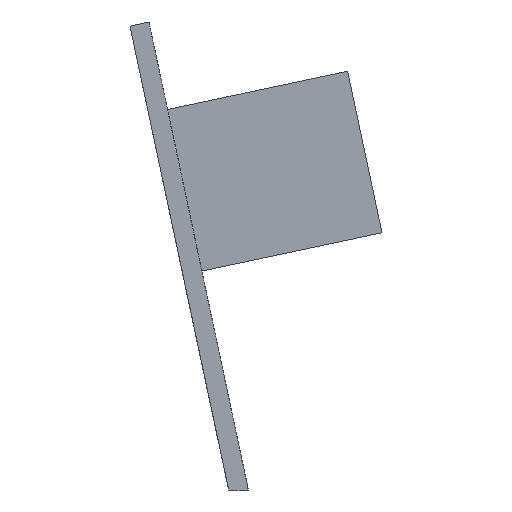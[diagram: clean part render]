
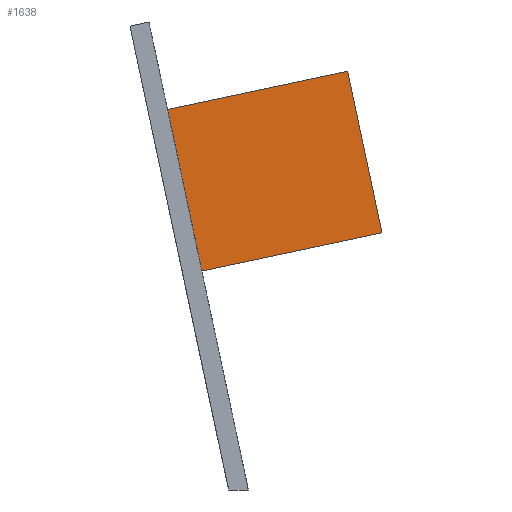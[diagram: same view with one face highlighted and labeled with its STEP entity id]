
A CAD part, left-side view. The second image highlights one B-rep face of the part: STEP entity #1638.
In plain terms, the highlighted planar face has unit normal (-1, 0, 0).
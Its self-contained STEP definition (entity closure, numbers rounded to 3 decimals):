
#44 = PLANE('',#45);
#45 = AXIS2_PLACEMENT_3D('',#46,#47,#48);
#46 = CARTESIAN_POINT('',(-10.4,9.249,13.033));
#47 = DIRECTION('',(0.,0.978,-0.208));
#48 = DIRECTION('',(0.,0.208,0.978));
#378 = VERTEX_POINT('',#379);
#379 = CARTESIAN_POINT('',(-8.5,21.308,69.765));
#393 = PLANE('',#394);
#394 = AXIS2_PLACEMENT_3D('',#395,#396,#397);
#395 = CARTESIAN_POINT('',(-8.5,-4.857,75.327));
#396 = DIRECTION('',(0.,0.208,0.978));
#397 = DIRECTION('',(1.,0.,0.));
#405 = EDGE_CURVE('',#378,#406,#408,.T.);
#406 = VERTEX_POINT('',#407);
#407 = CARTESIAN_POINT('',(-8.5,16.318,46.29));
#408 = SURFACE_CURVE('',#409,(#413,#420),.PCURVE_S1.);
#409 = LINE('',#410,#411);
#410 = CARTESIAN_POINT('',(-8.5,12.784,29.661));
#411 = VECTOR('',#412,1.);
#412 = DIRECTION('',(0.,-0.208,-0.978));
#413 = PCURVE('',#44,#414);
#414 = DEFINITIONAL_REPRESENTATION('',(#415),#419);
#415 = LINE('',#416,#417);
#416 = CARTESIAN_POINT('',(17.,1.9));
#417 = VECTOR('',#418,1.);
#418 = DIRECTION('',(-1.,0.));
#419 = ( GEOMETRIC_REPRESENTATION_CONTEXT(2) 
PARAMETRIC_REPRESENTATION_CONTEXT() REPRESENTATION_CONTEXT('2D SPACE',''
  ) );
#420 = PCURVE('',#421,#426);
#421 = PLANE('',#422);
#422 = AXIS2_PLACEMENT_3D('',#423,#424,#425);
#423 = CARTESIAN_POINT('',(-8.5,-9.847,51.851));
#424 = DIRECTION('',(1.,0.,0.));
#425 = DIRECTION('',(0.,0.208,0.978));
#426 = DEFINITIONAL_REPRESENTATION('',(#427),#431);
#427 = LINE('',#428,#429);
#428 = CARTESIAN_POINT('',(-17.,-26.75));
#429 = VECTOR('',#430,1.);
#430 = DIRECTION('',(-1.,0.));
#431 = ( GEOMETRIC_REPRESENTATION_CONTEXT(2) 
PARAMETRIC_REPRESENTATION_CONTEXT() REPRESENTATION_CONTEXT('2D SPACE',''
  ) );
#449 = PLANE('',#450);
#450 = AXIS2_PLACEMENT_3D('',#451,#452,#453);
#451 = CARTESIAN_POINT('',(-8.5,-9.847,51.851));
#452 = DIRECTION('',(0.,0.208,0.978));
#453 = DIRECTION('',(1.,0.,0.));
#1236 = PLANE('',#1237);
#1237 = AXIS2_PLACEMENT_3D('',#1238,#1239,#1240);
#1238 = CARTESIAN_POINT('',(-8.5,-9.847,51.851));
#1239 = DIRECTION('',(0.,0.978,-0.208));
#1240 = DIRECTION('',(0.,0.208,0.978));
#1593 = EDGE_CURVE('',#1594,#406,#1596,.T.);
#1594 = VERTEX_POINT('',#1595);
#1595 = CARTESIAN_POINT('',(-8.5,-9.847,51.851));
#1596 = SURFACE_CURVE('',#1597,(#1601,#1608),.PCURVE_S1.);
#1597 = LINE('',#1598,#1599);
#1598 = CARTESIAN_POINT('',(-8.5,-9.847,51.851));
#1599 = VECTOR('',#1600,1.);
#1600 = DIRECTION('',(0.,0.978,-0.208));
#1601 = PCURVE('',#449,#1602);
#1602 = DEFINITIONAL_REPRESENTATION('',(#1603),#1607);
#1603 = LINE('',#1604,#1605);
#1604 = CARTESIAN_POINT('',(0.,0.));
#1605 = VECTOR('',#1606,1.);
#1606 = DIRECTION('',(0.,1.));
#1607 = ( GEOMETRIC_REPRESENTATION_CONTEXT(2) 
PARAMETRIC_REPRESENTATION_CONTEXT() REPRESENTATION_CONTEXT('2D SPACE',''
  ) );
#1608 = PCURVE('',#421,#1609);
#1609 = DEFINITIONAL_REPRESENTATION('',(#1610),#1614);
#1610 = LINE('',#1611,#1612);
#1611 = CARTESIAN_POINT('',(0.,0.));
#1612 = VECTOR('',#1613,1.);
#1613 = DIRECTION('',(0.,-1.));
#1614 = ( GEOMETRIC_REPRESENTATION_CONTEXT(2) 
PARAMETRIC_REPRESENTATION_CONTEXT() REPRESENTATION_CONTEXT('2D SPACE',''
  ) );
#1638 = ADVANCED_FACE('',(#1639),#421,.F.);
#1639 = FACE_BOUND('',#1640,.F.);
#1640 = EDGE_LOOP('',(#1641,#1664,#1685,#1686));
#1641 = ORIENTED_EDGE('',*,*,#1642,.F.);
#1642 = EDGE_CURVE('',#1643,#378,#1645,.T.);
#1643 = VERTEX_POINT('',#1644);
#1644 = CARTESIAN_POINT('',(-8.5,-4.857,75.327));
#1645 = SURFACE_CURVE('',#1646,(#1650,#1657),.PCURVE_S1.);
#1646 = LINE('',#1647,#1648);
#1647 = CARTESIAN_POINT('',(-8.5,-4.857,75.327));
#1648 = VECTOR('',#1649,1.);
#1649 = DIRECTION('',(0.,0.978,-0.208));
#1650 = PCURVE('',#421,#1651);
#1651 = DEFINITIONAL_REPRESENTATION('',(#1652),#1656);
#1652 = LINE('',#1653,#1654);
#1653 = CARTESIAN_POINT('',(24.,0.));
#1654 = VECTOR('',#1655,1.);
#1655 = DIRECTION('',(0.,-1.));
#1656 = ( GEOMETRIC_REPRESENTATION_CONTEXT(2) 
PARAMETRIC_REPRESENTATION_CONTEXT() REPRESENTATION_CONTEXT('2D SPACE',''
  ) );
#1657 = PCURVE('',#393,#1658);
#1658 = DEFINITIONAL_REPRESENTATION('',(#1659),#1663);
#1659 = LINE('',#1660,#1661);
#1660 = CARTESIAN_POINT('',(0.,0.));
#1661 = VECTOR('',#1662,1.);
#1662 = DIRECTION('',(0.,1.));
#1663 = ( GEOMETRIC_REPRESENTATION_CONTEXT(2) 
PARAMETRIC_REPRESENTATION_CONTEXT() REPRESENTATION_CONTEXT('2D SPACE',''
  ) );
#1664 = ORIENTED_EDGE('',*,*,#1665,.F.);
#1665 = EDGE_CURVE('',#1594,#1643,#1666,.T.);
#1666 = SURFACE_CURVE('',#1667,(#1671,#1678),.PCURVE_S1.);
#1667 = LINE('',#1668,#1669);
#1668 = CARTESIAN_POINT('',(-8.5,-9.847,51.851));
#1669 = VECTOR('',#1670,1.);
#1670 = DIRECTION('',(0.,0.208,0.978));
#1671 = PCURVE('',#421,#1672);
#1672 = DEFINITIONAL_REPRESENTATION('',(#1673),#1677);
#1673 = LINE('',#1674,#1675);
#1674 = CARTESIAN_POINT('',(0.,0.));
#1675 = VECTOR('',#1676,1.);
#1676 = DIRECTION('',(1.,0.));
#1677 = ( GEOMETRIC_REPRESENTATION_CONTEXT(2) 
PARAMETRIC_REPRESENTATION_CONTEXT() REPRESENTATION_CONTEXT('2D SPACE',''
  ) );
#1678 = PCURVE('',#1236,#1679);
#1679 = DEFINITIONAL_REPRESENTATION('',(#1680),#1684);
#1680 = LINE('',#1681,#1682);
#1681 = CARTESIAN_POINT('',(0.,0.));
#1682 = VECTOR('',#1683,1.);
#1683 = DIRECTION('',(1.,0.));
#1684 = ( GEOMETRIC_REPRESENTATION_CONTEXT(2) 
PARAMETRIC_REPRESENTATION_CONTEXT() REPRESENTATION_CONTEXT('2D SPACE',''
  ) );
#1685 = ORIENTED_EDGE('',*,*,#1593,.T.);
#1686 = ORIENTED_EDGE('',*,*,#405,.F.);
